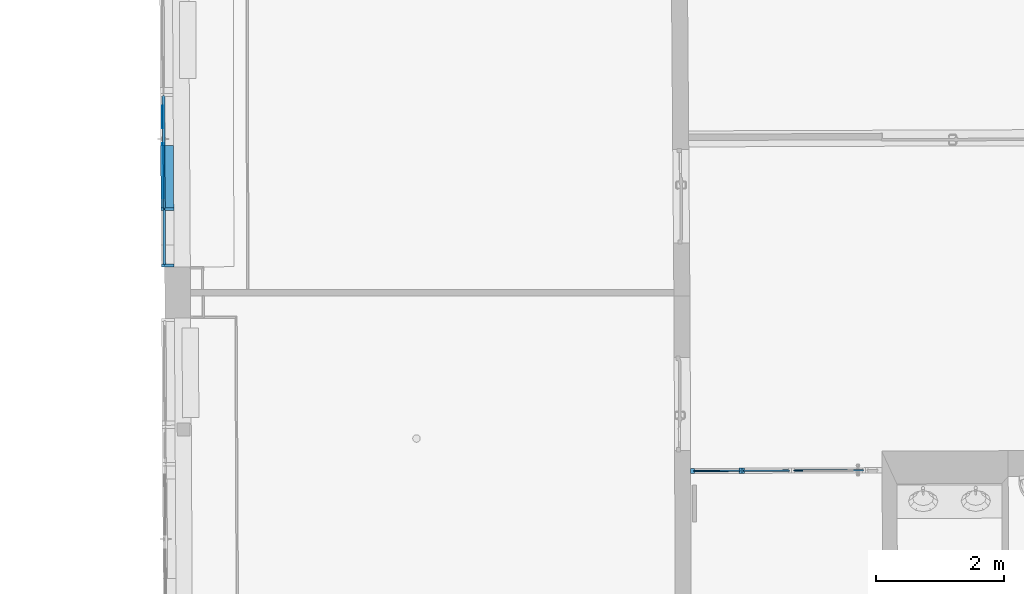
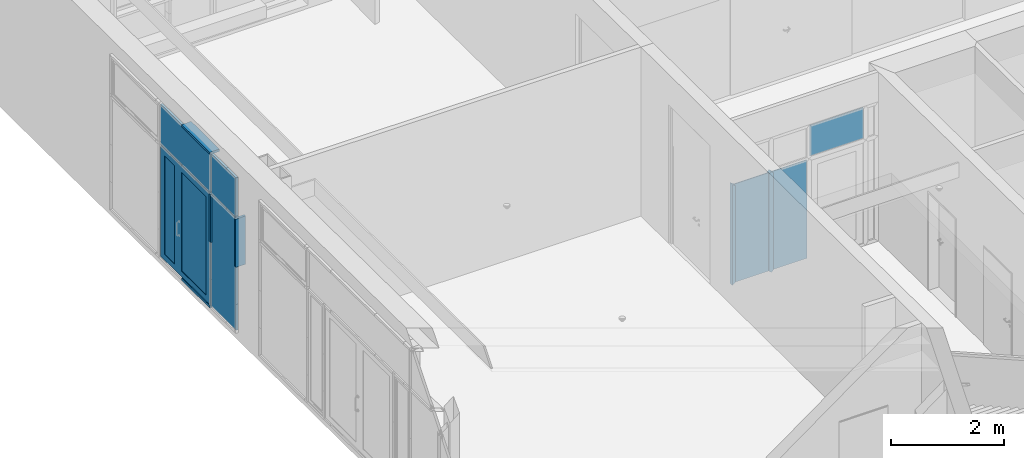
# One storey, part 124 of 196: 14 building element parts, 2 elements without a shape of their own.
"""IFC2X3 building model written with IfcOpenShell, lengths in metres."""

import ifcopenshell
import ifcopenshell.guid

model = None  # the IFC model being written
_history = None  # IfcOwnerHistory: only IFC2X3 demands one
_inside = {}  # id of a spatial element -> (the spatial element, [elements in it])
_under = {}  # id of a project, library or spatial element -> (it, [spatial elements below it])
_declared = {}  # id of a project -> (the project, [libraries it declares])
_typed = {}  # id of a type object -> (the type object, [elements of that type])
_made_of = {}  # id of a material, layer set ... -> (it, [elements and type objects made of it])


def new_model(schema):
    """Start an empty IFC model of exactly this schema.

    Asked for "IFC4X3", IfcOpenShell would pick the latest addendum, in which some entities
    have other attributes; the version numbers below select the first issue.
    IFC2X3 requires an IfcOwnerHistory on every rooted entity: one is made here for all.
    """
    global model, _history
    if schema == "IFC4X3":
        model = ifcopenshell.file(schema_version=(4, 3, 0, 0))
    else:
        model = ifcopenshell.file(schema=schema)
    _inside.clear()
    _under.clear()
    _declared.clear()
    _typed.clear()
    _made_of.clear()
    _history = None
    if model.schema == "IFC2X3":
        org = make("IfcOrganization", Name="unknown")
        user = make(
            "IfcPersonAndOrganization",
            ThePerson=make("IfcPerson", FamilyName="unknown"),
            TheOrganization=org,
        )
        app = make(
            "IfcApplication",
            ApplicationDeveloper=org,
            Version="unknown",
            ApplicationFullName="unknown",
            ApplicationIdentifier="unknown",
        )
        _history = make(
            "IfcOwnerHistory",
            OwningUser=user,
            OwningApplication=app,
            ChangeAction="ADDED",
            CreationDate=0,
        )
    return model


def make(cls, **values):
    """One entity of the class cls with the attributes given. An attribute that is None is left unset."""
    return model.create_entity(
        cls, **{name: value for name, value in values.items() if value is not None}
    )


def entity(cls, *values):
    """Any entity or typed value of the class cls, its attributes in the order of the schema. None: left unset."""
    e = model.create_entity(cls)
    for i, value in enumerate(values):
        if value is not None:
            e[i] = value
    return e


def rooted(cls, **values):
    """An entity with a GlobalId (a new one), such as an element, a storey or a relation."""
    return make(cls, GlobalId=ifcopenshell.guid.new(), OwnerHistory=_history, **values)


def si_unit(unit_type, name, prefix=None):
    """IfcSIUnit, for example si_unit("LENGTHUNIT", "METRE", prefix="MILLI")."""
    return make("IfcSIUnit", UnitType=unit_type, Prefix=prefix, Name=name)


def converted_unit(unit_type, name, factor, base, dimensions=None, offset=None):
    """IfcConversionBasedUnit, such as the inch: factor (a typed value) times the base unit."""
    return make(
        "IfcConversionBasedUnit"
        if offset is None
        else "IfcConversionBasedUnitWithOffset",
        ConversionOffset=offset,
        Dimensions=None
        if dimensions is None
        else entity("IfcDimensionalExponents", *dimensions),
        UnitType=unit_type,
        Name=name,
        ConversionFactor=make(
            "IfcMeasureWithUnit", ValueComponent=factor, UnitComponent=base
        ),
    )


def derived_unit(unit_type, elements):
    """IfcDerivedUnit: a product of units, each with its exponent."""
    return make(
        "IfcDerivedUnit",
        Elements=[
            make("IfcDerivedUnitElement", Unit=unit, Exponent=power)
            for unit, power in elements
        ],
        UnitType=unit_type,
    )


def money_unit(currency):
    """IfcMonetaryUnit."""
    return make("IfcMonetaryUnit", Currency=currency)


def assignment(units):
    """IfcUnitAssignment: the units of a project."""
    return None if units is None else make("IfcUnitAssignment", Units=units)


def point(xyz):
    """IfcCartesianPoint."""
    return None if xyz is None else make("IfcCartesianPoint", Coordinates=xyz)


def direction(xyz):
    """IfcDirection."""
    return None if xyz is None else make("IfcDirection", DirectionRatios=xyz)


def frame(location, z_axis=None, x_axis=None):
    """IfcAxis2Placement3D, a coordinate frame: its origin and axes. An axis left out is left unset."""
    return make(
        "IfcAxis2Placement3D",
        Location=point(location),
        Axis=direction(z_axis),
        RefDirection=direction(x_axis),
    )


def origin_with_axes():
    """The frame at (0, 0, 0) with the z axis (0, 0, 1) and the x axis (1, 0, 0) written out."""
    return frame((0.0, 0.0, 0.0), z_axis=(0.0, 0.0, 1.0), x_axis=(1.0, 0.0, 0.0))


def place(relative_to, where):
    """IfcLocalPlacement: puts the frame where relative to a parent placement (None: the world)."""
    return make(
        "IfcLocalPlacement", PlacementRelTo=relative_to, RelativePlacement=where
    )


def context(
    kind, dimensions, precision=None, world=None, true_north=None, identifier=None
):
    """IfcGeometricRepresentationContext, for example the 3D "Model" context."""
    return make(
        "IfcGeometricRepresentationContext",
        ContextIdentifier=identifier,
        ContextType=kind,
        CoordinateSpaceDimension=dimensions,
        Precision=precision,
        WorldCoordinateSystem=world,
        TrueNorth=true_north,
    )


def subcontext(parent, identifier, kind, view, scale=None):
    """IfcGeometricRepresentationSubContext, for example "Body" below "Model"."""
    return make(
        "IfcGeometricRepresentationSubContext",
        ContextIdentifier=identifier,
        ContextType=kind,
        ParentContext=parent,
        TargetScale=scale,
        TargetView=view,
    )


def project(units=None, contexts=None):
    """IfcProject with its units and contexts."""
    return rooted(
        "IfcProject",
        Name="project",
        RepresentationContexts=contexts,
        UnitsInContext=assignment(units),
    )


def spatial(cls, under=None, at=None, **own):
    """A site, building, storey or space (cls), placed at a placement, below another one or the project."""
    s = rooted(cls, ObjectPlacement=at, **own)
    if under is not None:
        _under.setdefault(under.id(), (under, []))[1].append(s)
    return s


def faces_of(points, faces, orient=None, outer=None):
    """IfcFace entities. A face is a list of loops; a loop is a list of indices into points, from 0.

    orient and outer hold one flag for each loop. By default every Orientation is true, the
    first loop of a face is its IfcFaceOuterBound and the others are IfcFaceBound.
    """
    made = []
    for i, loops in enumerate(faces):
        bounds = []
        for j, loop in enumerate(loops):
            is_outer = j == 0 if outer is None else outer[i][j]
            bounds.append(
                make(
                    "IfcFaceOuterBound" if is_outer else "IfcFaceBound",
                    Bound=make("IfcPolyLoop", Polygon=[points[k] for k in loop]),
                    Orientation=True if orient is None else orient[i][j],
                )
            )
        made.append(make("IfcFace", Bounds=bounds))
    return made


def faceted_brep(points, faces, orient=None, outer=None, voids=None):
    """IfcFacetedBrep: a solid bounded by flat faces; with voids (closed shells), ...WithVoids."""
    shared = [point(p) for p in points]
    hull = make("IfcClosedShell", CfsFaces=faces_of(shared, faces, orient, outer))
    if voids is None:
        return make("IfcFacetedBrep", Outer=hull)
    return make(
        "IfcFacetedBrepWithVoids",
        Outer=hull,
        Voids=[
            make(cls, CfsFaces=faces_of(shared, fs, o, b)) for cls, fs, o, b in voids
        ],
    )


def shape(context_of_items, identifier, shape_type, items):
    """IfcShapeRepresentation: the items that make up one representation, for example the "Body"."""
    return make(
        "IfcShapeRepresentation",
        ContextOfItems=context_of_items,
        RepresentationIdentifier=identifier,
        RepresentationType=shape_type,
        Items=items,
    )


def material(Name=None, Category=None):
    """IfcMaterial."""
    return make("IfcMaterial", Name=Name, Category=Category)


def made_of(thing, what):
    """Note that an element or type object is made of a material, layer set ...; save() writes the relation."""
    if what is not None:
        _made_of.setdefault(what.id(), (what, []))[1].append(thing)
    return thing


def type_object(cls, material=None, **own):
    """A type object (cls), such as IfcWallType, which elements share."""
    return made_of(rooted(cls, **own), material)


def element(
    cls,
    number,
    at=None,
    inside=None,
    cuts=None,
    type_object=None,
    material=None,
    context=None,
    identifier="Body",
    shape_type=None,
    held_by="IfcProductDefinitionShape",
    body=None,
    shapes=None,
    **own,
):
    """One element of the class cls, such as IfcWall. Its Tag is "e" and its number.

    at: its placement. inside: the storey or other place that contains it. cuts: it is an
    opening in that element (IfcRelVoidsElement). A single representation is given by context,
    identifier, shape_type and body (its items); several are given by shapes. held_by: the class
    of the entity that holds the representations. save() writes the other relations.
    """
    e = rooted(cls, Tag="e%d" % number, ObjectPlacement=at, **own)
    if body is not None:
        shapes = [shape(context, identifier, shape_type, body)]
    if shapes is not None:
        e.Representation = make(held_by, Representations=shapes)
    if inside is not None:
        _inside.setdefault(inside.id(), (inside, []))[1].append(e)
    if cuts is not None:
        rooted(
            "IfcRelVoidsElement", RelatingBuildingElement=cuts, RelatedOpeningElement=e
        )
    if type_object is not None:
        _typed.setdefault(type_object.id(), (type_object, []))[1].append(e)
    return made_of(e, material)


def aggregate(whole, parts):
    """IfcRelAggregates: a whole, such as a stair, and the parts it consists of."""
    return rooted("IfcRelAggregates", RelatingObject=whole, RelatedObjects=parts)


def save(model, path):
    """Write the relations noted so far, then the file.

    IfcRelAggregates (storeys below a building ...), IfcRelContainedInSpatialStructure (elements
    in a storey), IfcRelDefinesByType, IfcRelAssociatesMaterial and IfcRelDeclares: one each for
    every whole, place, type object, material and project.
    """
    for whole, parts in _under.values():
        aggregate(whole, parts)
    for where, things in _inside.values():
        rooted(
            "IfcRelContainedInSpatialStructure",
            RelatedElements=things,
            RelatingStructure=where,
        )
    for kind, things in _typed.values():
        rooted("IfcRelDefinesByType", RelatedObjects=things, RelatingType=kind)
    for what, things in _made_of.values():
        rooted("IfcRelAssociatesMaterial", RelatedObjects=things, RelatingMaterial=what)
    for by, libraries in _declared.values():
        rooted("IfcRelDeclares", RelatingContext=by, RelatedDefinitions=libraries)
    model.write(path)


model = new_model("IFC2X3")

# Units and contexts
model_context = context("Model", 3, precision=1e-05, world=origin_with_axes(), true_north=direction((0.0, 1.0)))
body_context = subcontext(model_context, "Body", "Model", "MODEL_VIEW")
ifc_project = project(units=[si_unit("LENGTHUNIT", "METRE"), si_unit("AREAUNIT", "SQUARE_METRE"), si_unit("VOLUMEUNIT", "CUBIC_METRE"), converted_unit("PLANEANGLEUNIT", "DEGREE", entity("IfcPlaneAngleMeasure", 0.0174532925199), si_unit("PLANEANGLEUNIT", "RADIAN"), dimensions=[0, 0, 0, 0, 0, 0, 0]), money_unit("EUR"), converted_unit("TIMEUNIT", "Year", entity("IfcTimeMeasure", 31556926.0), si_unit("TIMEUNIT", "SECOND"), dimensions=[0, 0, 1, 0, 0, 0, 0]), si_unit("MASSUNIT", "GRAM", prefix="KILO"), si_unit("THERMODYNAMICTEMPERATUREUNIT", "DEGREE_CELSIUS"), si_unit("LUMINOUSINTENSITYUNIT", "LUMEN"), si_unit("ENERGYUNIT", "JOULE", prefix="MEGA"), derived_unit("THERMALCONDUCTANCEUNIT", [(si_unit("POWERUNIT", "WATT"), 1), (si_unit("LENGTHUNIT", "METRE"), -1), (si_unit("THERMODYNAMICTEMPERATUREUNIT", "KELVIN"), -1)]), derived_unit("SPECIFICHEATCAPACITYUNIT", [(si_unit("ENERGYUNIT", "JOULE"), 1), (si_unit("MASSUNIT", "GRAM", prefix="KILO"), -1), (si_unit("THERMODYNAMICTEMPERATUREUNIT", "KELVIN"), -1)]), derived_unit("MASSDENSITYUNIT", [(si_unit("MASSUNIT", "GRAM", prefix="KILO"), 1), (si_unit("VOLUMEUNIT", "CUBIC_METRE"), -1)])], contexts=[model_context])

# Site, building, storey
site_placement = place(None, origin_with_axes())
site = spatial("IfcSite", under=ifc_project, at=site_placement, Name="Gelände", CompositionType="ELEMENT")
building_placement = place(site_placement, origin_with_axes())
building = spatial("IfcBuilding", under=site, at=building_placement, Name="Gebäude", CompositionType="ELEMENT")
storey_placement = place(building_placement, frame((0.0, 0.0, -3.0), z_axis=(0.0, 0.0, 1.0), x_axis=(1.0, 0.0, 0.0)))
storey = spatial("IfcBuildingStorey", under=building, at=storey_placement, Name="KELLERGESCHOSS", CompositionType="ELEMENT", Elevation=-3.0)

# Proxy, building element parts
building_element_proxy_type = type_object("IfcBuildingElementProxyType", Name="Fassadentyp", PredefinedType="NOTDEFINED")
proxy_1_placement = place(storey_placement, frame((-23.852064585, 42.2751077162, 0.417602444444), z_axis=(0.0, 0.0, 1.0), x_axis=(1.0, 0.0, 0.0)))
proxy_1 = element("IfcBuildingElementProxy", 1, at=proxy_1_placement, inside=storey, type_object=building_element_proxy_type, Name="Fassade-002")
ifc_material_1 = material(Name="45_Glas, Normalglas")
building_element_part_1_placement = place(proxy_1_placement, origin_with_axes())
building_element_part_1 = element("IfcBuildingElementPart", 2, at=building_element_part_1_placement, material=ifc_material_1, Name="45_Glas, Normalglas", context=body_context, shape_type="Brep", body=[
    faceted_brep([(-1.3120502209, 0.00475962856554, 2.23924697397), (-2.02504279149, 0.0019118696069, 2.23924697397), (-2.02496291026, -0.0180879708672, 2.23924697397), (-1.31197033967, -0.0152402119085, 2.23924697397), (-1.3120502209, 0.00475962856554, 0.124973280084), (-2.02504279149, 0.0019118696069, 0.124973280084), (-2.02496291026, -0.0180879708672, 0.124973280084), (-1.31197033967, -0.0152402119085, 0.124973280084)], [[[0, 1, 2, 3]], [[0, 4, 5, 1]], [[1, 5, 6, 2]], [[3, 2, 6, 7]], [[4, 0, 3, 7]], [[5, 4, 7, 6]]]),
])
building_element_part_2_placement = place(proxy_1_placement, origin_with_axes())
building_element_part_2 = element("IfcBuildingElementPart", 3, at=building_element_part_2_placement, material=ifc_material_1, Name="45_Glas, Normalglas", context=body_context, shape_type="Brep", body=[
    faceted_brep([(-0.159198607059, 0.00936422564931, 2.96000001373), (-1.25205071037, 0.00499927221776, 2.96000001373), (-1.25197082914, -0.0150005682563, 2.96000001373), (-0.159118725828, -0.0106356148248, 2.96000001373), (-0.159198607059, 0.00936422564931, 2.29924697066), (-1.25205071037, 0.00499927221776, 2.29924697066), (-1.25197082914, -0.0150005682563, 2.29924697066), (-0.159118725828, -0.0106356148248, 2.29924697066)], [[[0, 1, 2, 3]], [[0, 4, 5, 1]], [[1, 5, 6, 2]], [[3, 2, 6, 7]], [[4, 0, 3, 7]], [[5, 4, 7, 6]]]),
])
building_element_part_3_placement = place(proxy_1_placement, origin_with_axes())
building_element_part_3 = element("IfcBuildingElementPart", 4, at=building_element_part_3_placement, material=ifc_material_1, Name="45_Glas, Normalglas", context=body_context, shape_type="Brep", body=[
    faceted_brep([(-2.08504230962, 0.00167222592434, 2.23924697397), (-2.80598863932, -0.00120730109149, 2.23924697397), (-2.80590875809, -0.0212071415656, 2.23924697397), (-2.08496242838, -0.0183276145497, 2.23924697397), (-2.08504230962, 0.00167222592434, 0.124973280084), (-2.80598863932, -0.00120730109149, 0.124973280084), (-2.80590875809, -0.0212071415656, 0.124973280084), (-2.08496242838, -0.0183276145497, 0.124973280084)], [[[0, 1, 2, 3]], [[0, 4, 5, 1]], [[1, 5, 6, 2]], [[3, 2, 6, 7]], [[4, 0, 3, 7]], [[5, 4, 7, 6]]]),
])
ifc_material_2 = material(Name="53_Metall, Aluminium")
building_element_part_4_placement = place(proxy_1_placement, origin_with_axes())
building_element_part_4 = element("IfcBuildingElementPart", 5, at=building_element_part_4_placement, material=ifc_material_2, Name="53_Metall, Aluminium", context=body_context, shape_type="Brep", body=[
    faceted_brep([(-2.02504278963, 0.00191186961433, 2.23924697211), (-2.01004290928, 0.00197178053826, 2.22424697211), (-2.01016273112, 0.0319715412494, 2.22424697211), (-2.05516237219, 0.0317918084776, 2.26924697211), (-2.05484284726, -0.0482075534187, 2.26924697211), (-2.0098432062, -0.048027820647, 2.22424697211), (-2.00996302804, -0.0180280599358, 2.22424697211), (-2.0249629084, -0.0180879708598, 2.23924697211), (-2.02504278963, 0.00191186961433, 0.126639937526), (-2.01004290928, 0.00197178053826, 0.139973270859), (-2.01016273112, 0.0319715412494, 0.139973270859), (-2.05516237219, 0.0317918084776, 0.0999732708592), (-2.10016201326, 0.0316120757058, 0.139973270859), (-2.10016201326, 0.0316120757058, 2.22424697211), (-2.10004219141, 0.00161231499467, 2.22424697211), (-2.08504231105, 0.0016722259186, 2.23924697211), (-2.08496242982, -0.0183276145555, 2.23924697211), (-2.09996231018, -0.0183875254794, 2.22424697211), (-2.09984248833, -0.0483872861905, 2.22424697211), (-2.05484284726, -0.0482075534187, 0.0999732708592), (-2.0098432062, -0.048027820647, 0.139973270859), (-2.09984248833, -0.0483872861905, 0.139973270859), (-2.00996302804, -0.0180280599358, 0.139973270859), (-2.0249629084, -0.0180879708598, 0.126639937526), (-2.09996231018, -0.0183875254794, 0.139973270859), (-2.08496242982, -0.0183276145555, 0.126639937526), (-2.08504231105, 0.0016722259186, 0.126639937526), (-2.10004219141, 0.00161231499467, 0.139973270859)], [[[0, 1, 2, 3, 4, 5, 6, 7]], [[1, 0, 8, 9]], [[1, 9, 10, 2]], [[11, 12, 13, 3, 2, 10]], [[3, 13, 14, 15, 16, 17, 18, 4]], [[19, 20, 5, 4, 18, 21]], [[22, 6, 5, 20]], [[7, 6, 22, 23]], [[0, 7, 23, 8]], [[23, 22, 20, 19, 11, 10, 9, 8]], [[21, 24, 25, 26, 27, 12, 11, 19]], [[14, 13, 12, 27]], [[14, 27, 26, 15]], [[15, 26, 25, 16]], [[17, 16, 25, 24]], [[24, 21, 18, 17]]]),
])
building_element_part_5_placement = place(proxy_1_placement, origin_with_axes())
building_element_part_5 = element("IfcBuildingElementPart", 6, at=building_element_part_5_placement, material=ifc_material_2, Name="53_Metall, Aluminium", context=body_context, shape_type="Brep", body=[
    faceted_brep([(-2.80598863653, -0.00120730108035, 2.23549697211), (-2.79098875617, -0.00114739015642, 2.22424697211), (-2.79110857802, 0.0288523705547, 2.22424697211), (-2.85110809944, 0.028612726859, 2.26924697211), (-2.85078857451, -0.0513866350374, 2.26924697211), (-2.79078905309, -0.0511469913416, 2.22424697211), (-2.79090887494, -0.0211472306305, 2.22424697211), (-2.8059087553, -0.0212071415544, 2.23549697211), (-2.80598863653, -0.00120730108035, 0.129973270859), (-2.79098875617, -0.00114739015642, 0.139973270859), (-2.79110857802, 0.0288523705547, 0.139973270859), (-2.85110809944, 0.028612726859, 0.0999732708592), (-2.85078857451, -0.0513866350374, 0.0999732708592), (-2.79078905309, -0.0511469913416, 0.139973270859), (-2.79090887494, -0.0211472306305, 0.139973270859), (-2.8059087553, -0.0212071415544, 0.129973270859)], [[[0, 1, 2, 3, 4, 5, 6, 7]], [[0, 8, 9, 1]], [[9, 10, 2, 1]], [[10, 11, 3, 2]], [[11, 12, 4, 3]], [[12, 13, 5, 4]], [[6, 5, 13, 14]], [[14, 15, 7, 6]], [[7, 15, 8, 0]], [[8, 15, 14, 13, 12, 11, 10, 9]]]),
])
aggregate(proxy_1, [building_element_part_1, building_element_part_2, building_element_part_3, building_element_part_4, building_element_part_5])

proxy_2_placement = place(storey_placement, frame((-34.913387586, 47.2552574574, 0.421025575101), z_axis=(0.0, 0.0, 1.0), x_axis=(1.0, 0.0, 0.0)))
proxy_2 = element("IfcBuildingElementProxy", 7, at=proxy_2_placement, inside=storey, type_object=building_element_proxy_type, Name="Fassade-002")
building_element_part_6_placement = place(proxy_2_placement, origin_with_axes())
building_element_part_6 = element("IfcBuildingElementPart", 8, at=building_element_part_6_placement, material=ifc_material_2, Name="53_Metall, Aluminium", context=body_context, shape_type="Brep", body=[
    faceted_brep([(0.0301870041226, -0.884353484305, 0.0499999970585), (0.0301870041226, -0.884353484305, 2.43264337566), (0.0251870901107, -0.884382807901, 2.43264337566), (0.0251870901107, -0.884382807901, 0.0499999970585), (0.0299230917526, -0.839354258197, 0.0499999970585), (0.0299230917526, -0.839354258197, 2.38764337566), (0.0249231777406, -0.839383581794, 2.38764337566), (0.0249231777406, -0.839383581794, 0.0499999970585)], [[[0, 1, 2, 3]], [[0, 4, 5, 1]], [[1, 5, 6, 2]], [[3, 2, 6, 7]], [[4, 0, 3, 7]], [[5, 4, 7, 6]]]),
    faceted_brep([(0.0200529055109, 0.843593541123, 2.43264337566), (0.0203168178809, 0.798594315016, 2.38764337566), (0.015316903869, 0.798564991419, 2.38764337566), (0.0150529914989, 0.843564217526, 2.43264337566), (0.0301870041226, -0.884353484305, 2.43264337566), (0.0299230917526, -0.839354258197, 2.38764337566), (0.0249231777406, -0.839383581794, 2.38764337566), (0.0251870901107, -0.884382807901, 2.43264337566)], [[[0, 1, 2, 3]], [[0, 4, 5, 1]], [[1, 5, 6, 2]], [[3, 2, 6, 7]], [[4, 0, 3, 7]], [[5, 4, 7, 6]]]),
    faceted_brep([(0.0200529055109, 0.843593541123, 0.0499999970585), (0.0203168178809, 0.798594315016, 0.0499999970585), (0.015316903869, 0.798564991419, 0.0499999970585), (0.0150529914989, 0.843564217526, 0.0499999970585), (0.0200529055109, 0.843593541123, 2.43264337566), (0.0203168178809, 0.798594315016, 2.38764337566), (0.015316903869, 0.798564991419, 2.38764337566), (0.0150529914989, 0.843564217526, 2.43264337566)], [[[0, 1, 2, 3]], [[0, 4, 5, 1]], [[1, 5, 6, 2]], [[3, 2, 6, 7]], [[4, 0, 3, 7]], [[5, 4, 7, 6]]]),
    faceted_brep([(0.0251870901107, -0.884382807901, 0.0499999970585), (0.0251870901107, -0.884382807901, 2.43264337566), (-0.0248120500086, -0.884676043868, 2.43264337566), (-0.0248120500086, -0.884676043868, 0.0499999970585), (0.025069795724, -0.864383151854, 0.0499999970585), (0.025069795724, -0.864383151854, 2.41264337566), (-0.0249293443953, -0.864676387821, 2.41264337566), (-0.0249293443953, -0.864676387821, 0.0499999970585)], [[[0, 1, 2, 3]], [[0, 4, 5, 1]], [[1, 5, 6, 2]], [[3, 2, 6, 7]], [[4, 0, 3, 7]], [[5, 4, 7, 6]]]),
    faceted_brep([(0.0150529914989, 0.843564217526, 2.43264337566), (0.0151702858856, 0.823564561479, 2.41264337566), (-0.0348288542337, 0.823271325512, 2.41264337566), (-0.0349461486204, 0.84327098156, 2.43264337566), (0.0251870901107, -0.884382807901, 2.43264337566), (0.025069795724, -0.864383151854, 2.41264337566), (-0.0249293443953, -0.864676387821, 2.41264337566), (-0.0248120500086, -0.884676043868, 2.43264337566)], [[[0, 1, 2, 3]], [[0, 4, 5, 1]], [[1, 5, 6, 2]], [[3, 2, 6, 7]], [[4, 0, 3, 7]], [[5, 4, 7, 6]]]),
    faceted_brep([(0.0150529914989, 0.843564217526, 0.0499999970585), (0.0151702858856, 0.823564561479, 0.0499999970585), (-0.0348288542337, 0.823271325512, 0.0499999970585), (-0.0349461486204, 0.84327098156, 0.0499999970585), (0.0150529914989, 0.843564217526, 2.43264337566), (0.0151702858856, 0.823564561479, 2.41264337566), (-0.0348288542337, 0.823271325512, 2.41264337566), (-0.0349461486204, 0.84327098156, 2.43264337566)], [[[0, 1, 2, 3]], [[0, 4, 5, 1]], [[1, 5, 6, 2]], [[3, 2, 6, 7]], [[4, 0, 3, 7]], [[5, 4, 7, 6]]]),
    faceted_brep([(0.0149650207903, 0.858563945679, 0.035000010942), (0.0252750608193, -0.899382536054, 0.035000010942), (-0.0147242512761, -0.899617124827, 0.035000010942), (-0.0250342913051, 0.858329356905, 0.035000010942), (0.0150529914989, 0.843564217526, 0.0499999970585), (0.0251870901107, -0.884382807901, 0.0499999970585), (-0.0148122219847, -0.884617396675, 0.0499999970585), (-0.0249463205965, 0.843329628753, 0.0499999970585)], [[[0, 1, 2, 3]], [[0, 4, 5, 1]], [[1, 5, 6, 2]], [[3, 2, 6, 7]], [[4, 0, 3, 7]], [[5, 4, 7, 6]]]),
    faceted_brep([(0.0252750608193, -0.899382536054, 0.035000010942), (0.0252750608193, -0.899382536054, 2.44764336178), (-0.0147242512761, -0.899617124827, 2.44764336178), (-0.0147242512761, -0.899617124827, 0.035000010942), (0.0251870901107, -0.884382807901, 0.0499999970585), (0.0251870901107, -0.884382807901, 2.43264337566), (-0.0148122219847, -0.884617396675, 2.43264337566), (-0.0148122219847, -0.884617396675, 0.0499999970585)], [[[0, 1, 2, 3]], [[0, 4, 5, 1]], [[1, 5, 6, 2]], [[3, 2, 6, 7]], [[4, 0, 3, 7]], [[5, 4, 7, 6]]]),
    faceted_brep([(0.0252750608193, -0.899382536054, 2.44764336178), (0.0149650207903, 0.858563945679, 2.44764336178), (-0.0250342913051, 0.858329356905, 2.44764336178), (-0.0147242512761, -0.899617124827, 2.44764336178), (0.0251870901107, -0.884382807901, 2.43264337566), (0.0150529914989, 0.843564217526, 2.43264337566), (-0.0249463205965, 0.843329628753, 2.43264337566), (-0.0148122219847, -0.884617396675, 2.43264337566)], [[[0, 1, 2, 3]], [[0, 4, 5, 1]], [[1, 5, 6, 2]], [[3, 2, 6, 7]], [[4, 0, 3, 7]], [[5, 4, 7, 6]]]),
    faceted_brep([(0.0149650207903, 0.858563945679, 2.44764336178), (0.0149650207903, 0.858563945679, 0.035000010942), (-0.0250342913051, 0.858329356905, 0.035000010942), (-0.0250342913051, 0.858329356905, 2.44764336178), (0.0150529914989, 0.843564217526, 2.43264337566), (0.0150529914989, 0.843564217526, 0.0499999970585), (-0.0249463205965, 0.843329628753, 0.0499999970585), (-0.0249463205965, 0.843329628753, 2.43264337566)], [[[0, 1, 2, 3]], [[0, 4, 5, 1]], [[1, 5, 6, 2]], [[3, 2, 6, 7]], [[4, 0, 3, 7]], [[5, 4, 7, 6]]]),
    faceted_brep([(0.0158740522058, 0.703566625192, 0.169999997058), (0.0158740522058, 0.703566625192, 2.29264337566), (-0.0341250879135, 0.703273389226, 2.29264337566), (-0.0341250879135, 0.703273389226, 0.169999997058), (0.0151702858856, 0.823564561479, 0.0499999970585), (0.0151702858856, 0.823564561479, 2.41264337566), (-0.0348288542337, 0.823271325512, 2.41264337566), (-0.0348288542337, 0.823271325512, 0.0499999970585)], [[[0, 1, 2, 3]], [[0, 4, 5, 1]], [[1, 5, 6, 2]], [[3, 2, 6, 7]], [[4, 0, 3, 7]], [[5, 4, 7, 6]]]),
    faceted_brep([(0.0186304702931, 0.233574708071, 0.0499999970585), (0.0186304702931, 0.233574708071, 2.41264337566), (-0.0313686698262, 0.233281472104, 2.41264337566), (-0.0313686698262, 0.233281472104, 0.0499999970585), (0.0179267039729, 0.353572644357, 0.169999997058), (0.0179267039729, 0.353572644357, 2.29264337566), (-0.0320724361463, 0.353279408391, 2.29264337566), (-0.0320724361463, 0.353279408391, 0.169999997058)], [[[0, 1, 2, 3]], [[0, 4, 5, 1]], [[1, 5, 6, 2]], [[3, 2, 6, 7]], [[4, 0, 3, 7]], [[5, 4, 7, 6]]]),
    faceted_brep([(0.0186304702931, 0.233574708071, 0.0499999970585), (0.0179267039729, 0.353572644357, 0.169999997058), (-0.0320724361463, 0.353279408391, 0.169999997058), (-0.0313686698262, 0.233281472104, 0.0499999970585), (0.0151702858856, 0.823564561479, 0.0499999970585), (0.0158740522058, 0.703566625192, 0.169999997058), (-0.0341250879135, 0.703273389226, 0.169999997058), (-0.0348288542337, 0.823271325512, 0.0499999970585)], [[[0, 1, 2, 3]], [[0, 4, 5, 1]], [[1, 5, 6, 2]], [[3, 2, 6, 7]], [[4, 0, 3, 7]], [[5, 4, 7, 6]]]),
    faceted_brep([(0.0151702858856, 0.823564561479, 2.41264337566), (0.0158740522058, 0.703566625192, 2.29264337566), (-0.0341250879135, 0.703273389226, 2.29264337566), (-0.0348288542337, 0.823271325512, 2.41264337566), (0.0186304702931, 0.233574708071, 2.41264337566), (0.0179267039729, 0.353572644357, 2.29264337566), (-0.0320724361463, 0.353279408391, 2.29264337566), (-0.0313686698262, 0.233281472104, 2.41264337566)], [[[0, 1, 2, 3]], [[0, 4, 5, 1]], [[1, 5, 6, 2]], [[3, 2, 6, 7]], [[4, 0, 3, 7]], [[5, 4, 7, 6]]]),
    faceted_brep([(0.0193342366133, 0.113576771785, 0.169999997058), (0.0193342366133, 0.113576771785, 2.29264337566), (-0.030664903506, 0.113283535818, 2.29264337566), (-0.030664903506, 0.113283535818, 0.169999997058), (0.0186304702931, 0.233574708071, 0.0499999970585), (0.0186304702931, 0.233574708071, 2.41264337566), (-0.0313686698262, 0.233281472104, 2.41264337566), (-0.0313686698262, 0.233281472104, 0.0499999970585)], [[[0, 1, 2, 3]], [[0, 4, 5, 1]], [[1, 5, 6, 2]], [[3, 2, 6, 7]], [[4, 0, 3, 7]], [[5, 4, 7, 6]]]),
    faceted_brep([(0.025069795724, -0.864383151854, 0.0499999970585), (0.025069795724, -0.864383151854, 2.41264337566), (-0.0249293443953, -0.864676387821, 2.41264337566), (-0.0249293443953, -0.864676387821, 0.0499999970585), (0.0243660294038, -0.744385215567, 0.169999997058), (0.0243660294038, -0.744385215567, 2.29264337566), (-0.0256331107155, -0.744678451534, 2.29264337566), (-0.0256331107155, -0.744678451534, 0.169999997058)], [[[0, 1, 2, 3]], [[0, 4, 5, 1]], [[1, 5, 6, 2]], [[3, 2, 6, 7]], [[4, 0, 3, 7]], [[5, 4, 7, 6]]]),
    faceted_brep([(0.025069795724, -0.864383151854, 0.0499999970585), (0.0243660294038, -0.744385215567, 0.169999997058), (-0.0256331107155, -0.744678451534, 0.169999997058), (-0.0249293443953, -0.864676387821, 0.0499999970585), (0.0186304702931, 0.233574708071, 0.0499999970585), (0.0193342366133, 0.113576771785, 0.169999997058), (-0.030664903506, 0.113283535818, 0.169999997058), (-0.0313686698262, 0.233281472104, 0.0499999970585)], [[[0, 1, 2, 3]], [[0, 4, 5, 1]], [[1, 5, 6, 2]], [[3, 2, 6, 7]], [[4, 0, 3, 7]], [[5, 4, 7, 6]]]),
    faceted_brep([(0.0186304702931, 0.233574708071, 2.41264337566), (0.0193342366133, 0.113576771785, 2.29264337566), (-0.030664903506, 0.113283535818, 2.29264337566), (-0.0313686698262, 0.233281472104, 2.41264337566), (0.025069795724, -0.864383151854, 2.41264337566), (0.0243660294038, -0.744385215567, 2.29264337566), (-0.0256331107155, -0.744678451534, 2.29264337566), (-0.0249293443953, -0.864676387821, 2.41264337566)], [[[0, 1, 2, 3]], [[0, 4, 5, 1]], [[1, 5, 6, 2]], [[3, 2, 6, 7]], [[4, 0, 3, 7]], [[5, 4, 7, 6]]]),
])
building_element_part_7_placement = place(proxy_2_placement, origin_with_axes())
building_element_part_7 = element("IfcBuildingElementPart", 9, at=building_element_part_7_placement, material=ifc_material_1, Name="45_Glas, Normalglas", context=body_context, shape_type="Brep", body=[
    faceted_brep([(-0.00812553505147, 0.703425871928, 0.169999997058), (-0.00607288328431, 0.353431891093, 0.169999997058), (-0.0220726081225, 0.353338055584, 0.169999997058), (-0.0241252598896, 0.703332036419, 0.169999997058), (-0.00812553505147, 0.703425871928, 2.29264337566), (-0.00607288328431, 0.353431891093, 2.29264337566), (-0.0220726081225, 0.353338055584, 2.29264337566), (-0.0241252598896, 0.703332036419, 2.29264337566)], [[[0, 1, 2, 3]], [[0, 4, 5, 1]], [[1, 5, 6, 2]], [[3, 2, 6, 7]], [[4, 0, 3, 7]], [[5, 4, 7, 6]]]),
    faceted_brep([(-0.00466535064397, 0.113436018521, 0.169999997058), (0.000366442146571, -0.744525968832, 0.169999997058), (-0.0156332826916, -0.744619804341, 0.169999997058), (-0.0206650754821, 0.113342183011, 0.169999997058), (-0.00466535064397, 0.113436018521, 2.29264337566), (0.000366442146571, -0.744525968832, 2.29264337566), (-0.0156332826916, -0.744619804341, 2.29264337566), (-0.0206650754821, 0.113342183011, 2.29264337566)], [[[0, 1, 2, 3]], [[0, 4, 5, 1]], [[1, 5, 6, 2]], [[3, 2, 6, 7]], [[4, 0, 3, 7]], [[5, 4, 7, 6]]]),
])
building_element_part_8_placement = place(proxy_2_placement, origin_with_axes())
building_element_part_8 = element("IfcBuildingElementPart", 10, at=building_element_part_8_placement, material=ifc_material_1, Name="45_Glas, Normalglas", context=body_context, shape_type="Brep", body=[
    faceted_brep([(0.0252750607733, -0.899382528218, 3.31499995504), (0.0195181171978, 0.082223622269, 3.31499995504), (-0.0204811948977, 0.0819890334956, 3.31499995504), (-0.0147242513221, -0.899617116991, 3.31499995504), (0.0252750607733, -0.899382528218, 2.52000004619), (0.0252750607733, -0.899382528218, 2.4676433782), (0.0195181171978, 0.082223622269, 2.4676433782), (0.0149650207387, 0.858563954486, 2.4676433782), (0.0149650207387, 0.858563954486, 2.52000004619), (0.0149650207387, 0.858563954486, 3.31499995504), (-0.0250342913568, 0.858329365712, 3.31499995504), (-0.0250342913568, 0.858329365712, 2.52000004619), (-0.0250342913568, 0.858329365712, 2.4676433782), (-0.0204811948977, 0.0819890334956, 2.4676433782), (-0.0147242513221, -0.899617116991, 2.4676433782), (-0.0147242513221, -0.899617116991, 2.52000004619)], [[[0, 1, 2, 3]], [[0, 4, 5, 6, 7, 8, 9, 1]], [[1, 9, 10, 2]], [[3, 2, 10, 11, 12, 13, 14, 15]], [[4, 0, 3, 15]], [[5, 4, 15, 14]], [[6, 5, 14, 13]], [[7, 6, 13, 12]], [[8, 7, 12, 11]], [[9, 8, 11, 10]]]),
])
building_element_part_9_placement = place(proxy_2_placement, origin_with_axes())
building_element_part_9 = element("IfcBuildingElementPart", 11, at=building_element_part_9_placement, material=ifc_material_1, Name="45_Glas, Normalglas", context=body_context, shape_type="Brep", body=[
    faceted_brep([(0.0304318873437, -1.77866380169, 2.44764336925), (0.0286084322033, -1.46774972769, 2.44764336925), (-0.0113908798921, -1.46798431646, 2.44764336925), (-0.00956742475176, -1.77889839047, 2.44764336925), (0.0304318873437, -1.77866380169, 1.42000002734), (0.0304318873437, -1.77866380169, 0.620000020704), (0.0304318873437, -1.77866380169, 0.0350000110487), (0.0286084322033, -1.46774972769, 0.0350000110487), (0.0253923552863, -0.919382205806, 0.0350000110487), (0.0253923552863, -0.919382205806, 0.620000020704), (0.0253923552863, -0.919382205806, 1.42000002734), (0.0253923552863, -0.919382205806, 2.44764336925), (-0.0146069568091, -0.919616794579, 2.44764336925), (-0.0146069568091, -0.919616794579, 1.42000002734), (-0.0146069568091, -0.919616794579, 0.620000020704), (-0.0146069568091, -0.919616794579, 0.0350000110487), (-0.0113908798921, -1.46798431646, 0.0350000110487), (-0.00956742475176, -1.77889839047, 0.0350000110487), (-0.00956742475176, -1.77889839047, 0.620000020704), (-0.00956742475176, -1.77889839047, 1.42000002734)], [[[0, 1, 2, 3]], [[0, 4, 5, 6, 7, 8, 9, 10, 11, 1]], [[1, 11, 12, 2]], [[3, 2, 12, 13, 14, 15, 16, 17, 18, 19]], [[4, 0, 3, 19]], [[5, 4, 19, 18]], [[6, 5, 18, 17]], [[7, 6, 17, 16]], [[8, 7, 16, 15]], [[9, 8, 15, 14]], [[10, 9, 14, 13]], [[11, 10, 13, 12]]]),
])
building_element_part_10_placement = place(proxy_2_placement, origin_with_axes())
building_element_part_10 = element("IfcBuildingElementPart", 12, at=building_element_part_10_placement, material=ifc_material_1, Name="45_Glas, Normalglas", context=body_context, shape_type="Brep", body=[
    faceted_brep([(0.0304318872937, -1.77866379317, 3.31499994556), (0.0286084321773, -1.46774972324, 3.31499994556), (-0.0113908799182, -1.46798431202, 3.31499994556), (-0.00956742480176, -1.77889838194, 3.31499994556), (0.0304318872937, -1.77866379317, 2.52000002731), (0.0304318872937, -1.77866379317, 2.46764338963), (0.0286084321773, -1.46774972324, 2.46764338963), (0.0253923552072, -0.919382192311, 2.46764337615), (0.0253923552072, -0.919382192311, 2.52000002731), (0.0253923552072, -0.919382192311, 3.31499994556), (-0.0146069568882, -0.919616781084, 3.31499994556), (-0.0146069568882, -0.919616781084, 2.52000002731), (-0.0146069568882, -0.919616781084, 2.46764337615), (-0.0113908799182, -1.46798431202, 2.46764338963), (-0.00956742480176, -1.77889838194, 2.46764338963), (-0.00956742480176, -1.77889838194, 2.52000002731)], [[[0, 1, 2, 3]], [[0, 4, 5, 6, 7, 8, 9, 1]], [[1, 9, 10, 2]], [[3, 2, 10, 11, 12, 13, 14, 15]], [[4, 0, 3, 15]], [[5, 4, 15, 14]], [[6, 5, 14, 13]], [[7, 6, 13, 12]], [[8, 7, 12, 11]], [[9, 8, 11, 10]]]),
])
building_element_part_11_placement = place(proxy_2_placement, origin_with_axes())
building_element_part_11 = element("IfcBuildingElementPart", 13, at=building_element_part_11_placement, material=ifc_material_2, Name="53_Metall, Aluminium", context=body_context, shape_type="Brep", body=[
    faceted_brep([(0.0153925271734, -0.91944083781, 2.45764338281), (0.0154804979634, -0.934440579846, 2.45764338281), (0.155478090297, -0.933619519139, 2.45764338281), (0.155184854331, -0.88362037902, 2.45764338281), (0.0151872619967, -0.884441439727, 2.45764338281), (0.0152752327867, -0.899441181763, 2.45764338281), (-0.004724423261, -0.899558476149, 2.45764338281), (-0.00481239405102, -0.884558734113, 2.45764338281), (-0.0448117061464, -0.884793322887, 2.45764338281), (-0.0445184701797, -0.934792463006, 2.45764338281), (-0.00451915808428, -0.934557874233, 2.45764338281), (-0.0046071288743, -0.919558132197, 2.45764338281), (0.0153925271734, -0.91944083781, 1.42000003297), (0.0154804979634, -0.934440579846, 1.42000003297), (0.155478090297, -0.933619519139, 1.42000003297), (0.155184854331, -0.88362037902, 1.42000003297), (0.0151872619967, -0.884441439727, 1.42000003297), (0.0152752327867, -0.899441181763, 1.42000003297), (-0.004724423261, -0.899558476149, 1.42000003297), (-0.00481239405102, -0.884558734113, 1.42000003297), (-0.0448117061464, -0.884793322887, 1.42000003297), (-0.0445184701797, -0.934792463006, 1.42000003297), (-0.00451915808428, -0.934557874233, 1.42000003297), (-0.0046071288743, -0.919558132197, 1.42000003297)], [[[0, 1, 2, 3, 4, 5, 6, 7, 8, 9, 10, 11]], [[1, 0, 12, 13]], [[1, 13, 14, 2]], [[3, 2, 14, 15]], [[4, 3, 15, 16]], [[4, 16, 17, 5]], [[5, 17, 18, 6]], [[7, 6, 18, 19]], [[19, 20, 8, 7]], [[9, 8, 20, 21]], [[22, 10, 9, 21]], [[11, 10, 22, 23]], [[0, 11, 23, 12]], [[23, 22, 21, 20, 19, 18, 17, 16, 15, 14, 13, 12]]]),
])
building_element_part_12_placement = place(proxy_2_placement, origin_with_axes())
building_element_part_12 = element("IfcBuildingElementPart", 14, at=building_element_part_12_placement, material=ifc_material_2, Name="53_Metall, Aluminium", context=body_context, shape_type="Brep", body=[
    faceted_brep([(0.0153338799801, -0.909441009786, 0.0349999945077), (-0.00466577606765, -0.909558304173, 0.0349999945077), (-0.00466577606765, -0.909558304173, 0.0499999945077), (-0.0446650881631, -0.909792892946, 0.0499999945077), (-0.0446650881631, -0.909792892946, -5.49228174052e-09), (0.155331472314, -0.90861994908, -5.49228174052e-09), (0.155331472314, -0.90861994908, 0.0499999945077), (0.0153338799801, -0.909441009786, 0.0499999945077), (0.00951828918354, 0.0821649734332, 0.0349999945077), (-0.0104813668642, 0.0820476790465, 0.0349999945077), (-0.0104813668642, 0.0820476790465, 0.0499999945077), (-0.0504806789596, 0.0818130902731, 0.0499999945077), (-0.0504806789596, 0.0818130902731, -5.49228174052e-09), (0.149515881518, 0.0829860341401, -5.49228174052e-09), (0.149515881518, 0.0829860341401, 0.0499999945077), (0.00951828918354, 0.0821649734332, 0.0499999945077)], [[[0, 1, 2, 3, 4, 5, 6, 7]], [[1, 0, 8, 9]], [[10, 2, 1, 9]], [[2, 10, 11, 3]], [[12, 4, 3, 11]], [[13, 5, 4, 12]], [[14, 6, 5, 13]], [[15, 7, 6, 14]], [[0, 7, 15, 8]], [[8, 15, 14, 13, 12, 11, 10, 9]]]),
])
building_element_part_13_placement = place(proxy_2_placement, origin_with_axes())
building_element_part_13 = element("IfcBuildingElementPart", 15, at=building_element_part_13_placement, material=ifc_material_2, Name="53_Metall, Aluminium", context=body_context, shape_type="Brep", body=[
    faceted_brep([(0.0204320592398, -1.77872243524, 2.45764338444), (0.000432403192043, -1.77883972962, 2.45764338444), (0.000344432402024, -1.76383998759, 2.45764338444), (-0.0396548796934, -1.76407457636, 2.45764338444), (-0.0393616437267, -1.81407371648, 2.45764338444), (0.16063491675, -1.81290077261, 2.45764338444), (0.160341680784, -1.76290163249, 2.45764338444), (0.0203440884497, -1.7637226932, 2.45764338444), (0.0204320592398, -1.77872243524, 1.42000003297), (0.000432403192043, -1.77883972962, 1.42000003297), (0.000344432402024, -1.76383998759, 1.42000003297), (-0.0396548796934, -1.76407457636, 1.42000003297), (-0.0393616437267, -1.81407371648, 1.42000003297), (0.16063491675, -1.81290077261, 1.42000003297), (0.160341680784, -1.76290163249, 1.42000003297), (0.0203440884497, -1.7637226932, 1.42000003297)], [[[0, 1, 2, 3, 4, 5, 6, 7]], [[1, 0, 8, 9]], [[10, 2, 1, 9]], [[2, 10, 11, 3]], [[12, 4, 3, 11]], [[13, 5, 4, 12]], [[14, 6, 5, 13]], [[15, 7, 6, 14]], [[0, 7, 15, 8]], [[8, 15, 14, 13, 12, 11, 10, 9]]]),
])
building_element_part_14_placement = place(proxy_2_placement, origin_with_axes())
building_element_part_14 = element("IfcBuildingElementPart", 16, at=building_element_part_14_placement, material=ifc_material_2, Name="53_Metall, Aluminium", context=body_context, shape_type="Brep", body=[
    faceted_brep([(0.0153338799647, -0.90944100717, 3.31499994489), (0.0153338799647, -0.90944100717, 3.29999994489), (0.155331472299, -0.908619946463, 3.29999994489), (0.155331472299, -0.908619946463, 3.34999994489), (-0.0446650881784, -0.90979289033, 3.34999994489), (-0.0446650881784, -0.90979289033, 3.29999994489), (-0.004665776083, -0.909558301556, 3.29999994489), (-0.004665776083, -0.909558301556, 3.31499994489), (0.00951828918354, 0.0821649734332, 3.31499994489), (0.00951828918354, 0.0821649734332, 3.29999994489), (0.149515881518, 0.0829860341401, 3.29999994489), (0.149515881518, 0.0829860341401, 3.34999994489), (-0.0504806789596, 0.0818130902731, 3.34999994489), (-0.0504806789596, 0.0818130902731, 3.29999994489), (-0.0104813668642, 0.0820476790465, 3.29999994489), (-0.0104813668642, 0.0820476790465, 3.31499994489)], [[[0, 1, 2, 3, 4, 5, 6, 7]], [[0, 8, 9, 1]], [[9, 10, 2, 1]], [[10, 11, 3, 2]], [[11, 12, 4, 3]], [[12, 13, 5, 4]], [[6, 5, 13, 14]], [[14, 15, 7, 6]], [[7, 15, 8, 0]], [[8, 15, 14, 13, 12, 11, 10, 9]]]),
])
aggregate(proxy_2, [building_element_part_6, building_element_part_7, building_element_part_8, building_element_part_9, building_element_part_10, building_element_part_11, building_element_part_12, building_element_part_13, building_element_part_14])

save(model, "model.ifc")
